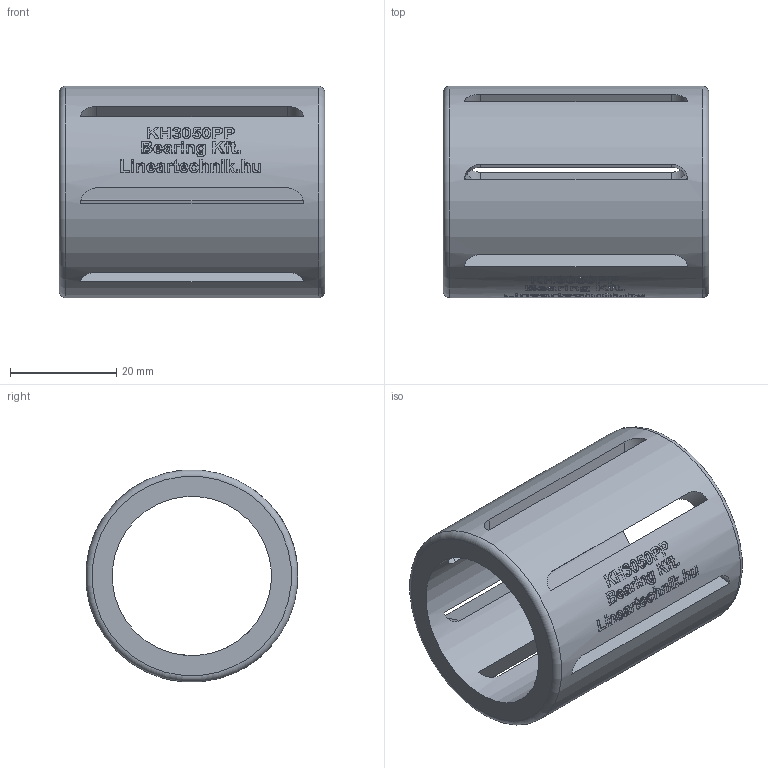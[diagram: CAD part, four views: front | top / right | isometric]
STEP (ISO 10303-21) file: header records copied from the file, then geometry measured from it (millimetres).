
FILE_DESCRIPTION(/* description */ (''),/* implementation_level */ '2;1');
FILE_NAME(/* name */ 'KH3050PP',/* time_stamp */ '2019-07-11T11:31:39+02:00',/* author */ ('VĂ©gh MĂˇtĂ©'),/* organization */ ('Bearing Kft'),/* preprocessor_version */ 'ST-DEVELOPER v16.7',/* originating_system */ 'DEX',/* authorisation */ $);
FILE_SCHEMA (('AUTOMOTIVE_DESIGN {1 0 10303 214 3 1 1}'));
Length unit declared in the file: millimetre
Products named in the file (1): KH3050PP
Bounding box: 50 x 39.92 x 39.85 mm (x, y, z)
Volume: 23110 mm3; surface area: 13359.8 mm2
Topology: 1 solids, 1 shells, 346 faces, 881 edges, 587 vertices
Faces by surface type: plane 174, bspline 104, cylinder 66, torus 2
Full cylindrical faces by diameter (mm): 30 x1, 40 x1
Entity records: 17375 total; most frequent: CARTESIAN_POINT 9580, ORIENTED_EDGE 1744, DIRECTION 1274, EDGE_CURVE 872, VERTEX_POINT 587, LINE 482, VECTOR 482, EDGE_LOOP 421
